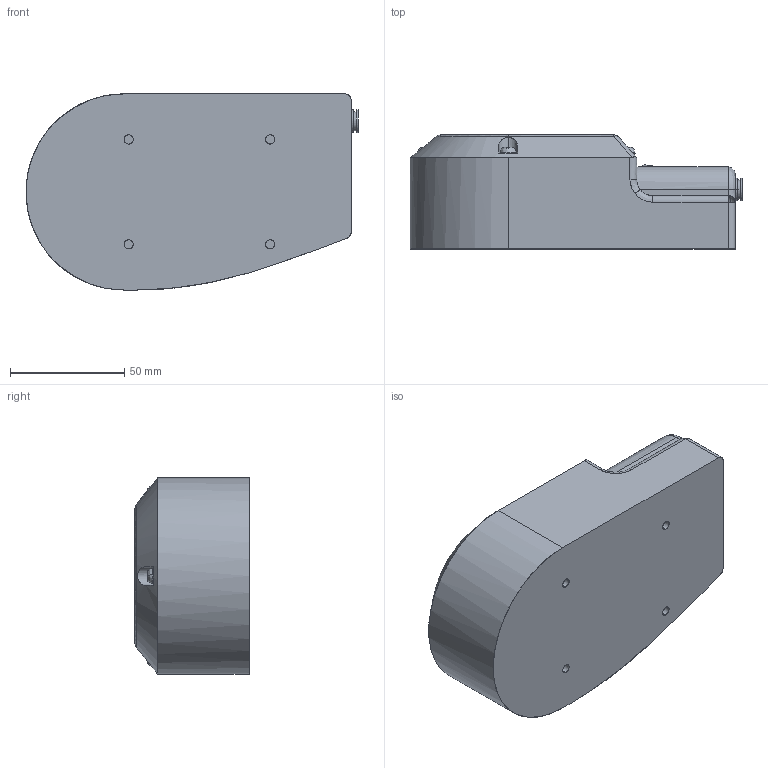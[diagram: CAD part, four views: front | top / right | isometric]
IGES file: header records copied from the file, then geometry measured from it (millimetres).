
Start section: SolidWorks IGES file using analytic representation for surfaces
Bounding box: 145.5 x 50 x 86.05 mm (x, y, z)
Surface area: 40499.7 mm2 (no closed solid volume)
Topology: 0 solids, 0 shells, 199 faces, 3136 edges, 3136 vertices
Faces by surface type: bspline 121, revolution 78
